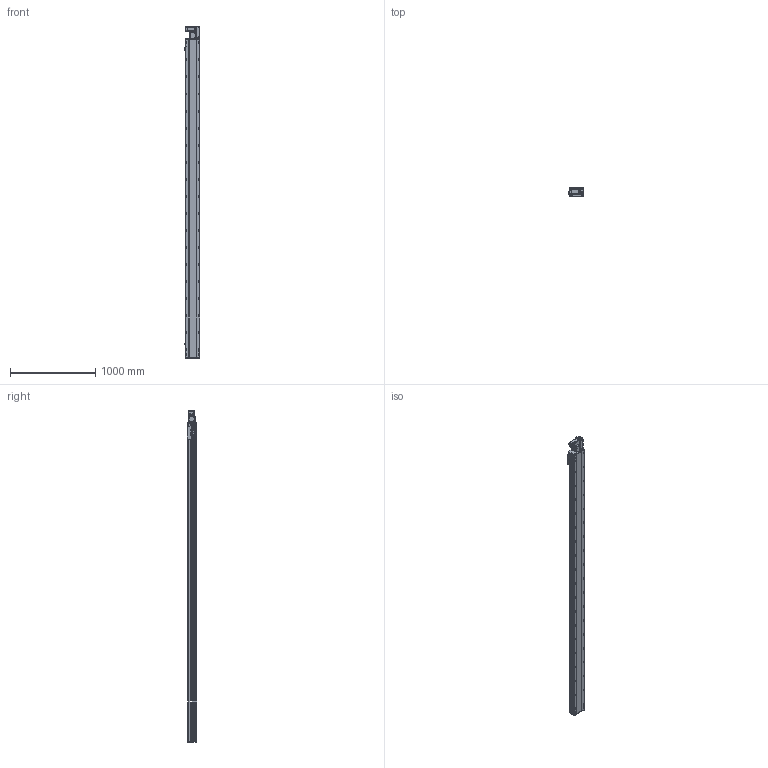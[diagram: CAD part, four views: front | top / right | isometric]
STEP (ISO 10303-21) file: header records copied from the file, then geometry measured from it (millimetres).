
FILE_DESCRIPTION (( 'STEP AP214' ), '1' );
FILE_NAME ('RTB17S-XX-3450-R-M40-C4.STEP', '2025-12-11T08:01:22', ( '' ), ( '' ), 'SwSTEP 2.0', 'SolidWorks 2018', '' );
FILE_SCHEMA (( 'AUTOMOTIVE_DESIGN' ));
Length unit declared in the file: millimetre
Products named in the file (14): RTB17S-R-々湍釱蚾饜-400W^RTB17S-XX-XX-R-M40-C4; RTB14-L-018P^RTB17S-R-々湍釱蚾饜-400W_RTB17S-XX-XX-R-M40-C4; RTB17S-L-007奻裔^RTB17S-XX-XX-R-M40-C4; RTB14-L-017P^RTB17S-R-々湍釱蚾饜-400W_RTB17S-XX-XX-R-M40-C4; OMRON EE-SX672 传感器^RTB17S-XX-XX-R-M40-C4; RTB17S-L-004佪裝蹟譫蟀諉釱^RTB17S-XX-XX-R-M40-C4; RTB17S-L-001耜醱啣^RTB17S-XX-XX-R-M40-C4; 400W侜督萇儂^RTB17S-XX-XX-R-M40-C4; RTB17S-XX-3450-R-M40-C4; RTB14-L-005P--轴承塑胶压盖^RTB17S-R-皮带座装配-400W_RTB17S-XX-XX-R-M40-C4; RTB14-L-008-M20--萇儂啣^RTB17S-R-々湍釱蚾饜-400W_RTB17S-XX-XX-R-M40-C4; RTB17S-L-014-T20--々湍釱^RTB17S-R-々湍釱蚾饜-400W_RTB17S-XX-XX-R-M40-C4; RTH13-BL-012覜茼え俋离^RTB17S-XX-XX-R-M40-C4; RTB17-R-011菁釱^RTB17S-XX-XX-R-M40-C4
Assembly tree (16 placements, depth 3):
  RTB17S-XX-3450-R-M40-C4
    RTB17-R-011菁釱^RTB17S-XX-XX-R-M40-C4
    RTB17S-L-007奻裔^RTB17S-XX-XX-R-M40-C4
    OMRON EE-SX672 传感器^RTB17S-XX-XX-R-M40-C4  x3
    RTB17S-L-001耜醱啣^RTB17S-XX-XX-R-M40-C4
    400W侜督萇儂^RTB17S-XX-XX-R-M40-C4
    RTB17S-L-004佪裝蹟譫蟀諉釱^RTB17S-XX-XX-R-M40-C4
    RTH13-BL-012覜茼え俋离^RTB17S-XX-XX-R-M40-C4
    RTB17S-R-々湍釱蚾饜-400W^RTB17S-XX-XX-R-M40-C4
      RTB17S-L-014-T20--々湍釱^RTB17S-R-々湍釱蚾饜-400W_RTB17S-XX-XX-R-M40-C4
      RTB14-L-005P--轴承塑胶压盖^RTB17S-R-皮带座装配-400W_RTB17S-XX-XX-R-M40-C4
      RTB14-L-008-M20--萇儂啣^RTB17S-R-々湍釱蚾饜-400W_RTB17S-XX-XX-R-M40-C4
      RTB14-L-017P^RTB17S-R-々湍釱蚾饜-400W_RTB17S-XX-XX-R-M40-C4  x2
      RTB14-L-018P^RTB17S-R-々湍釱蚾饜-400W_RTB17S-XX-XX-R-M40-C4
Bounding box: 183.5 x 108 x 3891 mm (x, y, z)
Volume: 32348639.6 mm3; surface area: 3678627.4 mm2
Topology: 15 solids, 15 shells, 2413 faces, 6789 edges, 4437 vertices
Faces by surface type: plane 1094, cylinder 871, bspline 301, cone 139, torus 8
Entity records: 72617 total; most frequent: CARTESIAN_POINT 20794, ORIENTED_EDGE 10422, DIRECTION 9566, EDGE_CURVE 5211, VERTEX_POINT 3425, AXIS2_PLACEMENT_3D 3355, VECTOR 2856, LINE 2856
